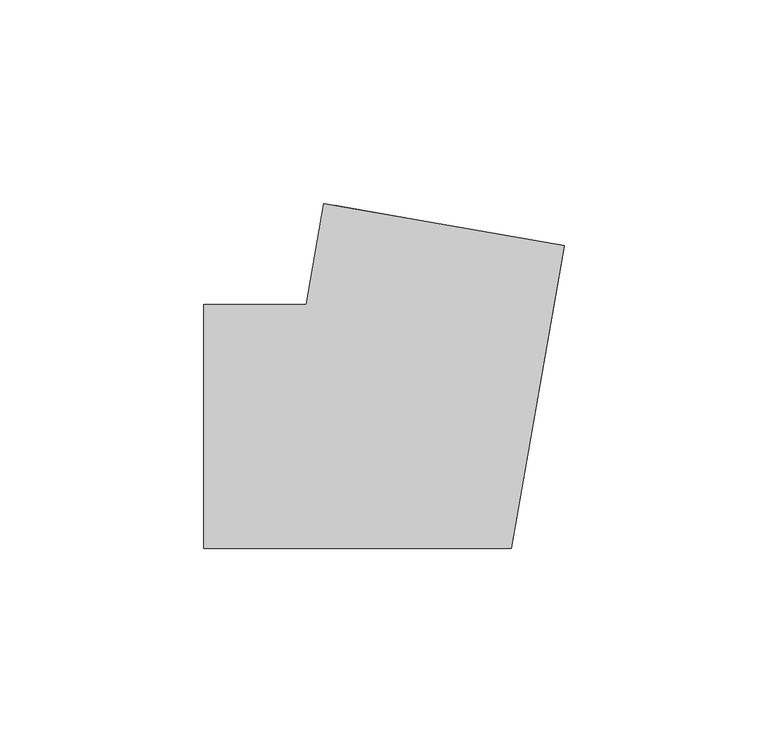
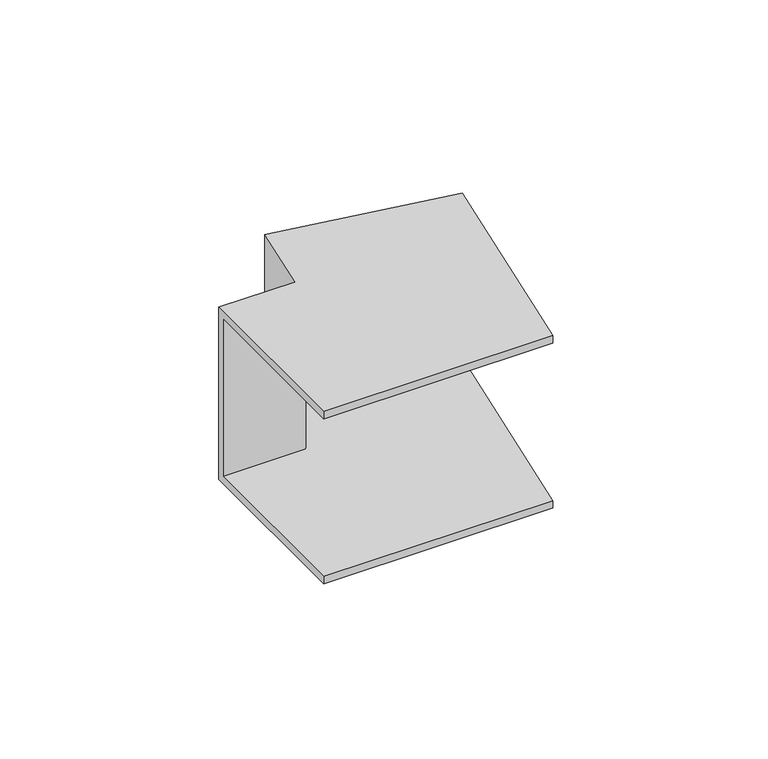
"""IFC4 building model written with IfcOpenShell, lengths in millimetres: cable carrier fitting geometry, КНС_УголВнешний_ILC_DKC : Угол внешний_DKC."""

from ifc_helpers import new_model, si_unit, origin, place, context, project, spatial, faceted_brep, source, transform, mapped, element, save


def cable_carrier_fitting_6e9f0f1c(model_context):
    return source(origin(), model_context, "Body", "Brep", [
        faceted_brep([(-50.3459779, 30.0, 30.0), (-50.3459779, 30.0, -30.0), (-50.3459779, -30.0, -30.0), (-50.3459779, -30.0, -27.5), (-50.3459779, 27.5, -27.5), (-50.3459779, 27.5, 27.5), (-50.3459779, -30.0, 27.5), (-50.3459779, -30.0, 30.0), (-20.8017453, 54.7905547, 30.0), (38.2867199, 44.371664, 30.0), (38.2867199, 44.371664, 27.5), (-18.3397259, 54.3564342, 27.5), (-18.3397259, 54.3564342, -27.5), (38.2867199, 44.371664, -27.5), (38.2867199, 44.371664, -30.0), (-20.8017453, 54.7905547, -30.0), (-25.1729889, 30.0, 30.0), (-25.1729889, 30.0, -30.0), (25.1729889, -30.0, -30.0), (25.1729889, -30.0, -27.5), (-23.0752399, 27.5, -27.5), (-23.0752399, 27.5, 27.5), (25.1729889, -30.0, 27.5), (25.1729889, -30.0, 30.0)], [[[0, 1, 2, 3, 4, 5, 6, 7]], [[8, 9, 10, 11, 12, 13, 14, 15]], [[1, 0, 16, 17]], [[2, 1, 17, 15, 14, 18]], [[3, 2, 18, 19]], [[4, 3, 19, 13, 12, 20]], [[5, 4, 20, 21]], [[6, 5, 21, 11, 10, 22]], [[7, 6, 22, 23]], [[0, 7, 23, 9, 8, 16]], [[17, 16, 8, 15]], [[19, 18, 14, 13]], [[21, 20, 12, 11]], [[23, 22, 10, 9]]]),
    ])


if __name__ == "__main__":
    model = new_model("IFC4")
    model_context = context("Model", 3, world=origin())
    ifc_project = project(units=[si_unit("LENGTHUNIT", "METRE", prefix="MILLI")], contexts=[model_context])
    site = spatial("IfcSite", under=ifc_project)
    building = spatial("IfcBuilding", under=site)
    placement = place(None, origin())
    cable_carrier_fitting_shape = cable_carrier_fitting_6e9f0f1c(model_context)
    element("IfcCableCarrierFitting", 1, ObjectType="КНС_УголВнешний_ILC_DKC : Угол внешний_DKC", at=placement, inside=building, context=model_context, shape_type="MappedRepresentation", body=[
        mapped(cable_carrier_fitting_shape, transform((0.0, 0.0, 0.0), x_axis=(1.0, 0.0, 0.0), y_axis=(0.0, 1.0, 0.0), z_axis=(0.0, 0.0, 1.0))),
    ])
    save(model, "model.ifc")
